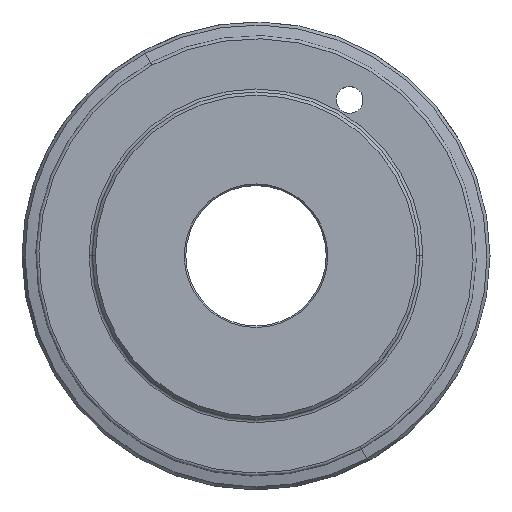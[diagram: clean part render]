
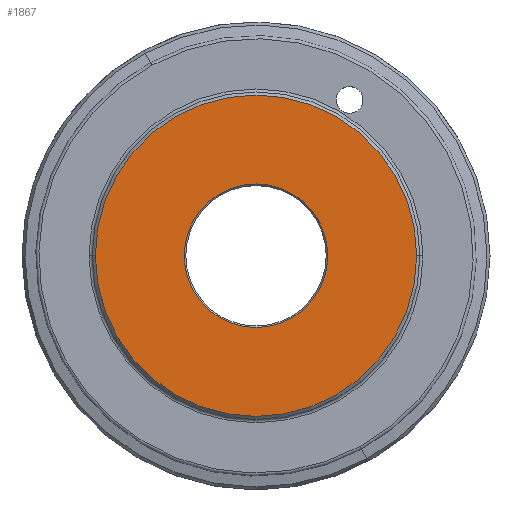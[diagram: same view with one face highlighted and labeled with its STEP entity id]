
A CAD part, top view. The second image highlights one B-rep face of the part: STEP entity #1867.
In plain terms, the highlighted planar face has unit normal (0, 0, 1).
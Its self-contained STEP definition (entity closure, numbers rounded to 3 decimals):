
#1468=CARTESIAN_POINT('Vertex',(-23.,0.,50.)) ;
#1471=CARTESIAN_POINT('Axis2P3D Location',(0.,0.,50.)) ;
#1475=CARTESIAN_POINT('Vertex',(23.,0.,50.)) ;
#1620=CARTESIAN_POINT('Vertex',(51.5,0.,50.)) ;
#1627=CARTESIAN_POINT('Vertex',(-51.5,0.,50.)) ;
#1630=CARTESIAN_POINT('Axis2P3D Location',(0.,0.,50.)) ;
#1647=CARTESIAN_POINT('Axis2P3D Location',(0.,0.,50.)) ;
#1721=CARTESIAN_POINT('Axis2P3D Location',(0.,0.,50.)) ;
#1854=CARTESIAN_POINT('Axis2P3D Location',(0.,0.,50.)) ;
#1472=DIRECTION('Axis2P3D Direction',(0.,0.,1.)) ;
#1631=DIRECTION('Axis2P3D Direction',(0.,0.,1.)) ;
#1648=DIRECTION('Axis2P3D Direction',(0.,0.,1.)) ;
#1722=DIRECTION('Axis2P3D Direction',(0.,0.,1.)) ;
#1855=DIRECTION('Axis2P3D Direction',(0.,0.,1.)) ;
#1856=DIRECTION('Axis2P3D XDirection',(1.,0.,0.)) ;
#1473=AXIS2_PLACEMENT_3D('Circle Axis2P3D',#1471,#1472,$) ;
#1632=AXIS2_PLACEMENT_3D('Circle Axis2P3D',#1630,#1631,$) ;
#1649=AXIS2_PLACEMENT_3D('Circle Axis2P3D',#1647,#1648,$) ;
#1723=AXIS2_PLACEMENT_3D('Circle Axis2P3D',#1721,#1722,$) ;
#1857=AXIS2_PLACEMENT_3D('Plane Axis2P3D',#1854,#1855,#1856) ;
#1860=ORIENTED_EDGE('',*,*,#1634,.T.) ;
#1861=ORIENTED_EDGE('',*,*,#1725,.T.) ;
#1864=ORIENTED_EDGE('',*,*,#1651,.F.) ;
#1865=ORIENTED_EDGE('',*,*,#1477,.F.) ;
#1866=FACE_BOUND('',#1863,.T.) ;
#1867=ADVANCED_FACE('\X2\96F64EF651E04F554F53\X0\',(#1862,#1866),#1858,.T.) ;
#1474=CIRCLE('generated circle',#1473,23.) ;
#1633=CIRCLE('generated circle',#1632,51.5) ;
#1650=CIRCLE('generated circle',#1649,23.) ;
#1724=CIRCLE('generated circle',#1723,51.5) ;
#1477=EDGE_CURVE('',#1469,#1476,#1474,.T.) ;
#1634=EDGE_CURVE('',#1621,#1628,#1633,.T.) ;
#1651=EDGE_CURVE('',#1476,#1469,#1650,.T.) ;
#1725=EDGE_CURVE('',#1628,#1621,#1724,.T.) ;
#1859=EDGE_LOOP('',(#1860,#1861)) ;
#1863=EDGE_LOOP('',(#1864,#1865)) ;
#1862=FACE_OUTER_BOUND('',#1859,.T.) ;
#1858=PLANE('Plane',#1857) ;
#1469=VERTEX_POINT('',#1468) ;
#1476=VERTEX_POINT('',#1475) ;
#1621=VERTEX_POINT('',#1620) ;
#1628=VERTEX_POINT('',#1627) ;
